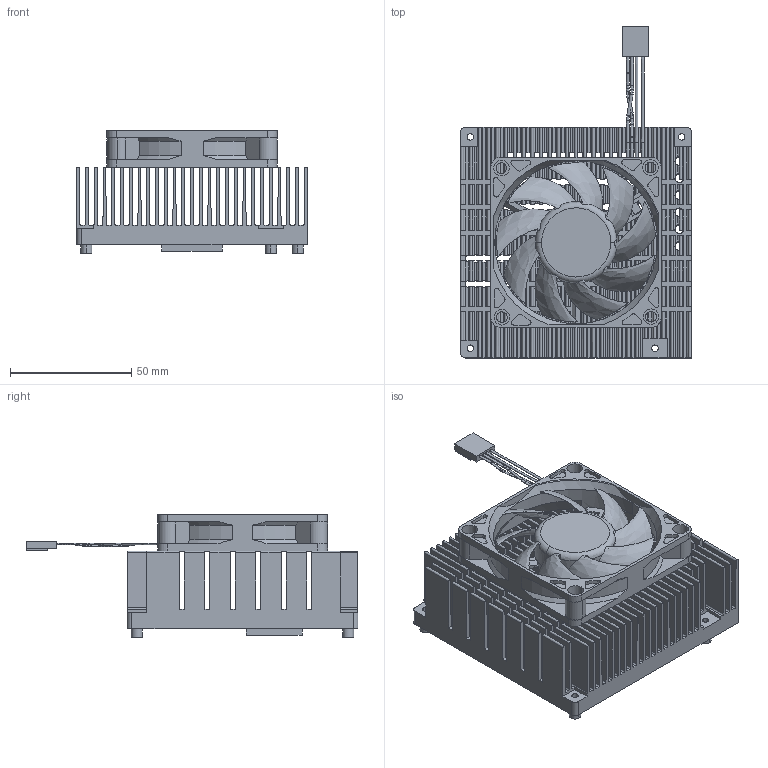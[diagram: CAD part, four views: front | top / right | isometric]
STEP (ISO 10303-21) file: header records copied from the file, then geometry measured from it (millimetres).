
FILE_DESCRIPTION((''),'2;1');
FILE_NAME('E1961123150001R_ASM','2018-09-17T11:07:00',('isaac_lin'),(''),'CREO PARAMETRIC BY PTC INC, 2017110','CREO PARAMETRIC BY PTC INC, 2017110','');
FILE_SCHEMA(('CONFIG_CONTROL_DESIGN'));
Products named in the file (7): E1961123150001R; CL_D20X6H; 7015_7; IM7015; CABLE; FAN-7015_ASM; E1961123150001R_ASM
Assembly tree (6 placements, depth 3):
  E1961123150001R_ASM
    E1961123150001R
    CL_D20X6H
    FAN-7015_ASM
      7015_7
      IM7015
      CABLE
Bounding box: 95 x 136.6 x 50.5 mm (x, y, z)
Volume: 129677.2 mm3; surface area: 162872.5 mm2
Topology: 5 solids, 5 shells, 2213 faces, 6318 edges, 4176 vertices
Faces by surface type: plane 1214, cylinder 849, bspline 42, extrusion 36, torus 34, cone 30, revolution 8
Entity records: 80960 total; most frequent: CARTESIAN_POINT 21987, ORIENTED_EDGE 12636, DIRECTION 12190, EDGE_CURVE 6318, AXIS2_PLACEMENT_3D 4181, VERTEX_POINT 4176, VECTOR 3820, LINE 3784
